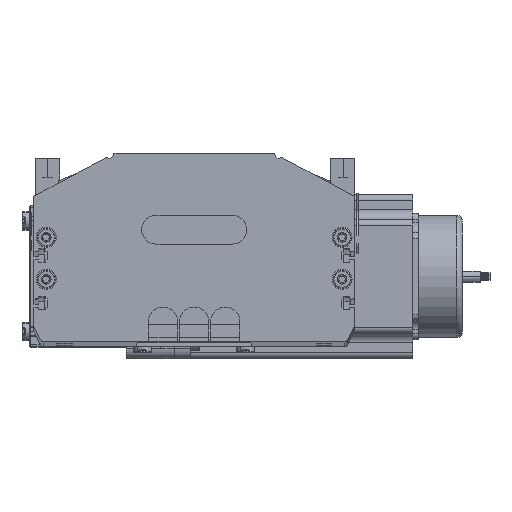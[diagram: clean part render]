
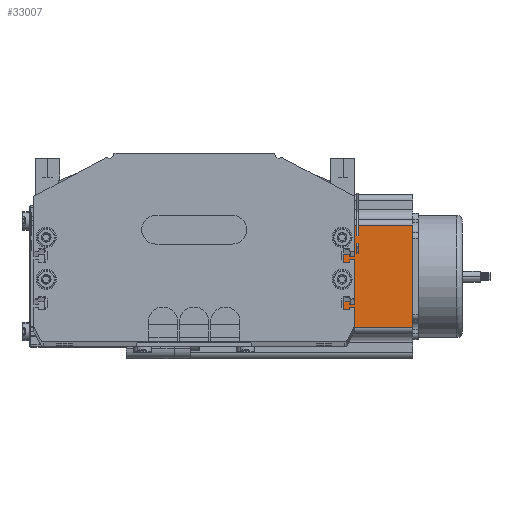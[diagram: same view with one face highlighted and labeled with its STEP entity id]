
A CAD part, top view. The second image highlights one B-rep face of the part: STEP entity #33007.
In plain terms, the highlighted planar face has unit normal (0, 0, 1) as drawn and (0, -1, 0) by its records, which use the part's own axes.
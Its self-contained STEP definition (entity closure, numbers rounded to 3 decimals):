
#32600 = EDGE_LOOP ( 'NONE', ( #32645, #33008, #33093, #32949 ) ) ;
#32640 = VERTEX_POINT ( 'NONE', #67802 ) ;
#32645 = ORIENTED_EDGE ( 'NONE', *, *, #33022, .T. ) ;
#32648 = EDGE_CURVE ( 'NONE', #32649, #33197, #67824, .T. ) ;
#32649 = VERTEX_POINT ( 'NONE', #67786 ) ;
#32653 = VERTEX_POINT ( 'NONE', #67714 ) ;
#32919 = EDGE_CURVE ( 'NONE', #32640, #33197, #68274, .T. ) ;
#32949 = ORIENTED_EDGE ( 'NONE', *, *, #32961, .T. ) ;
#32961 = EDGE_CURVE ( 'NONE', #32640, #32653, #68236, .T. ) ;
#33007 = ADVANCED_FACE ( 'NONE', ( #68174 ), #68237, .F. ) ;
#33008 = ORIENTED_EDGE ( 'NONE', *, *, #32648, .T. ) ;
#33022 = EDGE_CURVE ( 'NONE', #32653, #32649, #67992, .T. ) ;
#33093 = ORIENTED_EDGE ( 'NONE', *, *, #32919, .F. ) ;
#33197 = VERTEX_POINT ( 'NONE', #68432 ) ;
#67656 = VECTOR ( 'NONE', #67924, 1000. ) ;
#67714 = CARTESIAN_POINT ( 'NONE',  ( 16.16, 0., 0. ) ) ;
#67786 = CARTESIAN_POINT ( 'NONE',  ( 69.74, 0., 0. ) ) ;
#67802 = CARTESIAN_POINT ( 'NONE',  ( 16.16, 0., 116.5 ) ) ;
#67824 = LINE ( 'NONE', #67926, #67656 ) ;
#67924 = DIRECTION ( 'NONE',  ( 0., 0., 1. ) ) ;
#67926 = CARTESIAN_POINT ( 'NONE',  ( 69.74, 0., 116.5 ) ) ;
#67992 = LINE ( 'NONE', #68076, #68118 ) ;
#68075 = DIRECTION ( 'NONE',  ( 1., 0., 0. ) ) ;
#68076 = CARTESIAN_POINT ( 'NONE',  ( 0., 0., 0. ) ) ;
#68103 = DIRECTION ( 'NONE',  ( 1., 0., 0. ) ) ;
#68118 = VECTOR ( 'NONE', #68075, 1000. ) ;
#68160 = AXIS2_PLACEMENT_3D ( 'NONE', #68172, #68171, #68170 ) ;
#68170 = DIRECTION ( 'NONE',  ( 0., 0., 1. ) ) ;
#68171 = DIRECTION ( 'NONE',  ( 0., 1., 0. ) ) ;
#68172 = CARTESIAN_POINT ( 'NONE',  ( 0., 0., 116.5 ) ) ;
#68174 = FACE_OUTER_BOUND ( 'NONE', #32600, .T. ) ;
#68197 = VECTOR ( 'NONE', #68103, 1000. ) ;
#68199 = CARTESIAN_POINT ( 'NONE',  ( 0., 0., 116.5 ) ) ;
#68229 = DIRECTION ( 'NONE',  ( 0., 0., -1. ) ) ;
#68230 = VECTOR ( 'NONE', #68229, 1000. ) ;
#68231 = CARTESIAN_POINT ( 'NONE',  ( 16.16, 0., 116.5 ) ) ;
#68236 = LINE ( 'NONE', #68231, #68230 ) ;
#68237 = PLANE ( 'NONE',  #68160 ) ;
#68274 = LINE ( 'NONE', #68199, #68197 ) ;
#68432 = CARTESIAN_POINT ( 'NONE',  ( 69.74, 0., 116.5 ) ) ;
